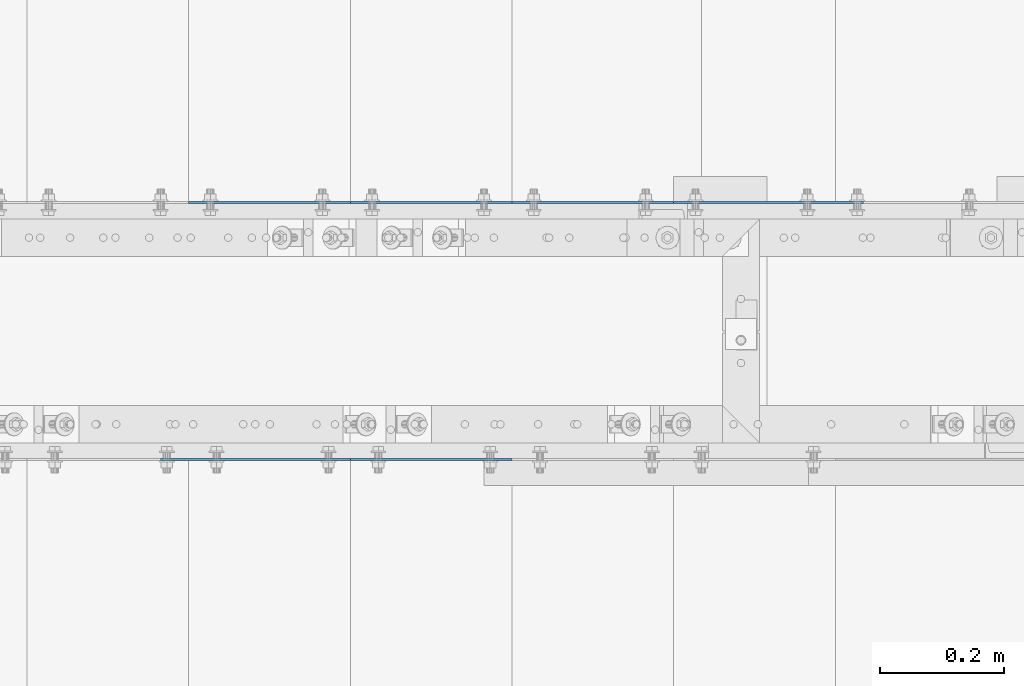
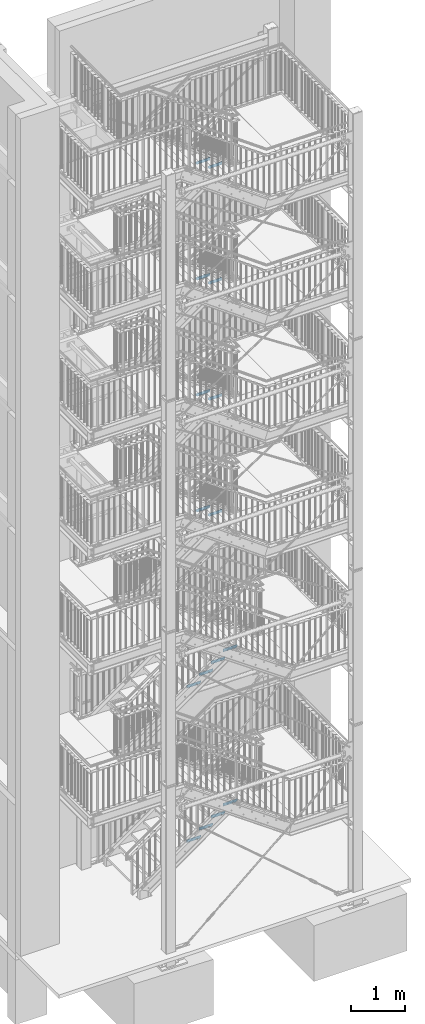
# One storey, part 173 of 821: 16 plates, 32 openings.
"""IFC2X3 building model written with IfcOpenShell, lengths in millimetres."""

import ifcopenshell
import ifcopenshell.guid

model = None  # the IFC model being written
_history = None  # IfcOwnerHistory: only IFC2X3 demands one
_inside = {}  # id of a spatial element -> (the spatial element, [elements in it])
_under = {}  # id of a project, library or spatial element -> (it, [spatial elements below it])
_declared = {}  # id of a project -> (the project, [libraries it declares])
_typed = {}  # id of a type object -> (the type object, [elements of that type])
_made_of = {}  # id of a material, layer set ... -> (it, [elements and type objects made of it])


def new_model(schema):
    """Start an empty IFC model of exactly this schema.

    Asked for "IFC4X3", IfcOpenShell would pick the latest addendum, in which some entities
    have other attributes; the version numbers below select the first issue.
    IFC2X3 requires an IfcOwnerHistory on every rooted entity: one is made here for all.
    """
    global model, _history
    if schema == "IFC4X3":
        model = ifcopenshell.file(schema_version=(4, 3, 0, 0))
    else:
        model = ifcopenshell.file(schema=schema)
    _inside.clear()
    _under.clear()
    _declared.clear()
    _typed.clear()
    _made_of.clear()
    _history = None
    if model.schema == "IFC2X3":
        org = make("IfcOrganization", Name="unknown")
        user = make(
            "IfcPersonAndOrganization",
            ThePerson=make("IfcPerson", FamilyName="unknown"),
            TheOrganization=org,
        )
        app = make(
            "IfcApplication",
            ApplicationDeveloper=org,
            Version="unknown",
            ApplicationFullName="unknown",
            ApplicationIdentifier="unknown",
        )
        _history = make(
            "IfcOwnerHistory",
            OwningUser=user,
            OwningApplication=app,
            ChangeAction="ADDED",
            CreationDate=0,
        )
    return model


def make(cls, **values):
    """One entity of the class cls with the attributes given. An attribute that is None is left unset."""
    return model.create_entity(
        cls, **{name: value for name, value in values.items() if value is not None}
    )


def entity(cls, *values):
    """Any entity or typed value of the class cls, its attributes in the order of the schema. None: left unset."""
    e = model.create_entity(cls)
    for i, value in enumerate(values):
        if value is not None:
            e[i] = value
    return e


def rooted(cls, **values):
    """An entity with a GlobalId (a new one), such as an element, a storey or a relation."""
    return make(cls, GlobalId=ifcopenshell.guid.new(), OwnerHistory=_history, **values)


def si_unit(unit_type, name, prefix=None):
    """IfcSIUnit, for example si_unit("LENGTHUNIT", "METRE", prefix="MILLI")."""
    return make("IfcSIUnit", UnitType=unit_type, Prefix=prefix, Name=name)


def converted_unit(unit_type, name, factor, base, dimensions=None, offset=None):
    """IfcConversionBasedUnit, such as the inch: factor (a typed value) times the base unit."""
    return make(
        "IfcConversionBasedUnit"
        if offset is None
        else "IfcConversionBasedUnitWithOffset",
        ConversionOffset=offset,
        Dimensions=None
        if dimensions is None
        else entity("IfcDimensionalExponents", *dimensions),
        UnitType=unit_type,
        Name=name,
        ConversionFactor=make(
            "IfcMeasureWithUnit", ValueComponent=factor, UnitComponent=base
        ),
    )


def assignment(units):
    """IfcUnitAssignment: the units of a project."""
    return None if units is None else make("IfcUnitAssignment", Units=units)


def point(xyz):
    """IfcCartesianPoint."""
    return None if xyz is None else make("IfcCartesianPoint", Coordinates=xyz)


def direction(xyz):
    """IfcDirection."""
    return None if xyz is None else make("IfcDirection", DirectionRatios=xyz)


def frame(location, z_axis=None, x_axis=None):
    """IfcAxis2Placement3D, a coordinate frame: its origin and axes. An axis left out is left unset."""
    return make(
        "IfcAxis2Placement3D",
        Location=point(location),
        Axis=direction(z_axis),
        RefDirection=direction(x_axis),
    )


def frame_2d(location, x_axis=None):
    """IfcAxis2Placement2D, a coordinate frame in the plane: its origin and x axis."""
    return make(
        "IfcAxis2Placement2D", Location=point(location), RefDirection=direction(x_axis)
    )


def origin():
    """The frame at (0, 0, 0) with its axes left unset."""
    return frame((0.0, 0.0, 0.0))


def origin_with_axes():
    """The frame at (0, 0, 0) with the z axis (0, 0, 1) and the x axis (1, 0, 0) written out."""
    return frame((0.0, 0.0, 0.0), z_axis=(0.0, 0.0, 1.0), x_axis=(1.0, 0.0, 0.0))


def origin_2d_with_axis():
    """The frame at (0, 0) in the plane with the x axis (1, 0) written out."""
    return frame_2d((0.0, 0.0), x_axis=(1.0, 0.0))


def place(relative_to, where):
    """IfcLocalPlacement: puts the frame where relative to a parent placement (None: the world)."""
    return make(
        "IfcLocalPlacement", PlacementRelTo=relative_to, RelativePlacement=where
    )


def context(
    kind, dimensions, precision=None, world=None, true_north=None, identifier=None
):
    """IfcGeometricRepresentationContext, for example the 3D "Model" context."""
    return make(
        "IfcGeometricRepresentationContext",
        ContextIdentifier=identifier,
        ContextType=kind,
        CoordinateSpaceDimension=dimensions,
        Precision=precision,
        WorldCoordinateSystem=world,
        TrueNorth=true_north,
    )


def project(units=None, contexts=None):
    """IfcProject with its units and contexts."""
    return rooted(
        "IfcProject",
        Name="project",
        RepresentationContexts=contexts,
        UnitsInContext=assignment(units),
    )


def spatial(cls, under=None, at=None, **own):
    """A site, building, storey or space (cls), placed at a placement, below another one or the project."""
    s = rooted(cls, ObjectPlacement=at, **own)
    if under is not None:
        _under.setdefault(under.id(), (under, []))[1].append(s)
    return s


def polyline(points):
    """IfcPolyline through the points."""
    return make("IfcPolyline", Points=[point(p) for p in points])


def circle_curve(where, radius):
    """IfcCircle in the frame where."""
    return make("IfcCircle", Position=where, Radius=radius)


def line_curve(start, along, magnitude):
    """IfcLine from a point along a vector."""
    return make(
        "IfcLine",
        Pnt=point(start),
        Dir=make("IfcVector", Orientation=direction(along), Magnitude=magnitude),
    )


def trimmed(basis, trim1, trim2, sense, master):
    """IfcTrimmedCurve: the piece of a basis curve between two trims."""
    return make(
        "IfcTrimmedCurve",
        BasisCurve=basis,
        Trim1=trim1,
        Trim2=trim2,
        SenseAgreement=sense,
        MasterRepresentation=master,
    )


def segment(curve, same_sense, transition):
    """IfcCompositeCurveSegment."""
    return make(
        "IfcCompositeCurveSegment",
        Transition=transition,
        SameSense=same_sense,
        ParentCurve=curve,
    )


def composite_curve(segments, self_intersect=None):
    """IfcCompositeCurve: segments joined end to end."""
    return make("IfcCompositeCurve", Segments=segments, SelfIntersect=self_intersect)


def profile(cls, at=None, kind="AREA", **sizes):
    """A parametric profile (cls). Its sizes go by their IFC names, for example OverallWidth=200.0."""
    return make(cls, ProfileType=kind, Position=at, **sizes)


def circle(**sizes):
    """IfcCircleProfileDef."""
    return profile("IfcCircleProfileDef", **sizes)


def outline(outer, holes=None, kind="AREA"):
    """IfcArbitraryClosedProfileDef: a profile drawn as a closed curve; with holes, ...WithVoids."""
    if holes is None:
        return make("IfcArbitraryClosedProfileDef", ProfileType=kind, OuterCurve=outer)
    return make(
        "IfcArbitraryProfileDefWithVoids",
        ProfileType=kind,
        OuterCurve=outer,
        InnerCurves=holes,
    )


def extrude(swept, where, along, depth):
    """IfcExtrudedAreaSolid: the profile swept, set in the frame where, extruded along a direction by depth."""
    return make(
        "IfcExtrudedAreaSolid",
        SweptArea=swept,
        Position=where,
        ExtrudedDirection=direction(along),
        Depth=depth,
    )


def shape(context_of_items, identifier, shape_type, items):
    """IfcShapeRepresentation: the items that make up one representation, for example the "Body"."""
    return make(
        "IfcShapeRepresentation",
        ContextOfItems=context_of_items,
        RepresentationIdentifier=identifier,
        RepresentationType=shape_type,
        Items=items,
    )


def material(Name=None, Category=None):
    """IfcMaterial."""
    return make("IfcMaterial", Name=Name, Category=Category)


def layer(
    of_material, thickness, ventilated=None, Name=None, Category=None, Priority=None
):
    """IfcMaterialLayer: one layer of a wall or slab, of a material (None: an air gap)."""
    return make(
        "IfcMaterialLayer",
        Material=of_material,
        LayerThickness=thickness,
        IsVentilated=ventilated,
        Name=Name,
        Category=Category,
        Priority=Priority,
    )


def layer_set(layers, Name=None):
    """IfcMaterialLayerSet."""
    return make("IfcMaterialLayerSet", MaterialLayers=layers, LayerSetName=Name)


def made_of(thing, what):
    """Note that an element or type object is made of a material, layer set ...; save() writes the relation."""
    if what is not None:
        _made_of.setdefault(what.id(), (what, []))[1].append(thing)
    return thing


def element(
    cls,
    number,
    at=None,
    inside=None,
    cuts=None,
    type_object=None,
    material=None,
    context=None,
    identifier="Body",
    shape_type=None,
    held_by="IfcProductDefinitionShape",
    body=None,
    shapes=None,
    **own,
):
    """One element of the class cls, such as IfcWall. Its Tag is "e" and its number.

    at: its placement. inside: the storey or other place that contains it. cuts: it is an
    opening in that element (IfcRelVoidsElement). A single representation is given by context,
    identifier, shape_type and body (its items); several are given by shapes. held_by: the class
    of the entity that holds the representations. save() writes the other relations.
    """
    e = rooted(cls, Tag="e%d" % number, ObjectPlacement=at, **own)
    if body is not None:
        shapes = [shape(context, identifier, shape_type, body)]
    if shapes is not None:
        e.Representation = make(held_by, Representations=shapes)
    if inside is not None:
        _inside.setdefault(inside.id(), (inside, []))[1].append(e)
    if cuts is not None:
        rooted(
            "IfcRelVoidsElement", RelatingBuildingElement=cuts, RelatedOpeningElement=e
        )
    if type_object is not None:
        _typed.setdefault(type_object.id(), (type_object, []))[1].append(e)
    return made_of(e, material)


def aggregate(whole, parts):
    """IfcRelAggregates: a whole, such as a stair, and the parts it consists of."""
    return rooted("IfcRelAggregates", RelatingObject=whole, RelatedObjects=parts)


def save(model, path):
    """Write the relations noted so far, then the file.

    IfcRelAggregates (storeys below a building ...), IfcRelContainedInSpatialStructure (elements
    in a storey), IfcRelDefinesByType, IfcRelAssociatesMaterial and IfcRelDeclares: one each for
    every whole, place, type object, material and project.
    """
    for whole, parts in _under.values():
        aggregate(whole, parts)
    for where, things in _inside.values():
        rooted(
            "IfcRelContainedInSpatialStructure",
            RelatedElements=things,
            RelatingStructure=where,
        )
    for kind, things in _typed.values():
        rooted("IfcRelDefinesByType", RelatedObjects=things, RelatingType=kind)
    for what, things in _made_of.values():
        rooted("IfcRelAssociatesMaterial", RelatedObjects=things, RelatingMaterial=what)
    for by, libraries in _declared.values():
        rooted("IfcRelDeclares", RelatingContext=by, RelatedDefinitions=libraries)
    model.write(path)


model = new_model("IFC2X3")

# Units and contexts
model_context = context("Model", 3, precision=1e-09, world=origin_with_axes())
ifc_project = project(units=[si_unit("LENGTHUNIT", "METRE", prefix="MILLI"), si_unit("AREAUNIT", "SQUARE_METRE"), si_unit("VOLUMEUNIT", "CUBIC_METRE"), converted_unit("PLANEANGLEUNIT", "DEGREE", entity("IfcPlaneAngleMeasure", 0.01745329), si_unit("PLANEANGLEUNIT", "RADIAN"), dimensions=[0, 0, 0, 0, 0, 0, 0])], contexts=[model_context])

# Site, building, storey
site_placement = place(None, origin_with_axes())
site = spatial("IfcSite", under=ifc_project, at=site_placement, Name="Cnopf'sche Kinderklinik", CompositionType="ELEMENT")
building_placement = place(site_placement, origin_with_axes())
building = spatial("IfcBuilding", under=site, at=building_placement, Name="Struktur 1", CompositionType="ELEMENT")
storey_placement = place(building_placement, origin_with_axes())
storey = spatial("IfcBuildingStorey", under=building, at=storey_placement, Name="Default Storey", CompositionType="ELEMENT", Elevation=0.0)

# Plate, openings
ifc_material = material(Name="S235JR")
ifc_layer = layer(ifc_material, 3.0)
ifc_layer_set = layer_set([ifc_layer], Name="S235JR")
plate_1_placement = place(None, frame((6536.713402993, 5733.736971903, 11680.7857145), z_axis=(0.0, 1.0, 0.0), x_axis=(0.0, 0.0, -1.0)))
plate_1 = element("IfcPlate", 1, at=plate_1_placement, inside=storey, material=ifc_layer_set, Name="Grate_Step#10", ObjectType="Grate_Step#10", context=model_context, shape_type="SweptSolid", body=[
    extrude(outline(polyline([(0.0, 0.0), (70.0, 0.0), (70.0, 275.0), (40.0, 305.0), (0.0, 305.0), (0.0, 0.0)])), origin_with_axes(), (0.0, 0.0, 1.0), 3.0),
])
opening_1_placement = place(plate_1_placement, frame((55.0, 215.0, -0.5), z_axis=(0.0, 0.0, 1.0), x_axis=(0.0, 1.0, 0.0)))
element("IfcOpeningElement", 2, at=opening_1_placement, cuts=plate_1, ObjectType="Opening", context=model_context, shape_type="SweptSolid", body=[
    extrude(outline(composite_curve([segment(trimmed(line_curve((-9.5, -7.001), (1.0, 0.0), 19.0), [point((-9.5, -7.001))], [point((9.5, -7.001))], True, "CARTESIAN"), True, "CONTINUOUS"), segment(trimmed(circle_curve(frame_2d((9.5, 0.0), x_axis=(1.0, 0.0)), 7.001), [point((9.5, -7.001))], [point((9.5, 7.001))], True, "CARTESIAN"), True, "CONTINUOUS"), segment(trimmed(line_curve((9.5, 7.001), (-1.0, 0.0), 19.0), [point((9.5, 7.001))], [point((-9.5, 7.001))], True, "CARTESIAN"), True, "CONTINUOUS"), segment(trimmed(circle_curve(frame_2d((-9.5, 0.0), x_axis=(1.0, 0.0)), 7.001), [point((-9.5, 7.001))], [point((-9.5, -7.001))], True, "CARTESIAN"), True, "CONTINUOUS")], self_intersect=False)), origin(), (0.0, 0.0, 1.0), 4.0),
])
opening_2_placement = place(plate_1_placement, frame((55.0, 35.0, -0.5), z_axis=(0.0, 0.0, 1.0), x_axis=(0.0, 1.0, 0.0)))
element("IfcOpeningElement", 3, at=opening_2_placement, cuts=plate_1, ObjectType="Opening", context=model_context, shape_type="SweptSolid", body=[
    extrude(circle(Radius=7.001, at=origin_2d_with_axis()), origin(), (0.0, 0.0, 1.0), 4.0),
])

plate_2_placement = place(None, frame((6796.713402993, 5733.736971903, 11493.1428574), z_axis=(0.0, 1.0, 0.0), x_axis=(0.0, 0.0, -1.0)))
plate_2 = element("IfcPlate", 4, at=plate_2_placement, inside=storey, material=ifc_layer_set, Name="Grate_Step#3", ObjectType="Grate_Step#3", context=model_context, shape_type="SweptSolid", body=[
    extrude(outline(polyline([(0.0, 0.0), (70.0, 0.0), (70.0, 275.0), (40.0, 305.0), (0.0, 305.0), (0.0, 0.0)])), origin_with_axes(), (0.0, 0.0, 1.0), 3.0),
])
opening_3_placement = place(plate_2_placement, frame((55.0, 215.0, -0.5), z_axis=(0.0, 0.0, 1.0), x_axis=(0.0, 1.0, 0.0)))
element("IfcOpeningElement", 5, at=opening_3_placement, cuts=plate_2, ObjectType="Opening", context=model_context, shape_type="SweptSolid", body=[
    extrude(outline(composite_curve([segment(trimmed(line_curve((-9.5, -7.001), (1.0, 0.0), 19.0), [point((-9.5, -7.001))], [point((9.5, -7.001))], True, "CARTESIAN"), True, "CONTINUOUS"), segment(trimmed(circle_curve(frame_2d((9.5, 0.0), x_axis=(1.0, 0.0)), 7.001), [point((9.5, -7.001))], [point((9.5, 7.001))], True, "CARTESIAN"), True, "CONTINUOUS"), segment(trimmed(line_curve((9.5, 7.001), (-1.0, 0.0), 19.0), [point((9.5, 7.001))], [point((-9.5, 7.001))], True, "CARTESIAN"), True, "CONTINUOUS"), segment(trimmed(circle_curve(frame_2d((-9.5, 0.0), x_axis=(1.0, 0.0)), 7.001), [point((-9.5, 7.001))], [point((-9.5, -7.001))], True, "CARTESIAN"), True, "CONTINUOUS")], self_intersect=False)), origin(), (0.0, 0.0, 1.0), 4.0),
])
opening_4_placement = place(plate_2_placement, frame((55.0, 35.0, -0.5), z_axis=(0.0, 0.0, 1.0), x_axis=(0.0, 1.0, 0.0)))
element("IfcOpeningElement", 6, at=opening_4_placement, cuts=plate_2, ObjectType="Opening", context=model_context, shape_type="SweptSolid", body=[
    extrude(circle(Radius=7.001, at=origin_2d_with_axis()), origin(), (0.0, 0.0, 1.0), 4.0),
])

plate_3_placement = place(None, frame((6796.713402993, 5733.736971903, 14124.7142858), z_axis=(0.0, 1.0, 0.0), x_axis=(0.0, 0.0, -1.0)))
plate_3 = element("IfcPlate", 7, at=plate_3_placement, inside=storey, material=ifc_layer_set, Name="Grate_Step#3", ObjectType="Grate_Step#3", context=model_context, shape_type="SweptSolid", body=[
    extrude(outline(polyline([(0.0, 0.0), (70.0, 0.0), (70.0, 275.0), (40.0, 305.0), (0.0, 305.0), (0.0, 0.0)])), origin_with_axes(), (0.0, 0.0, 1.0), 3.0),
])
opening_5_placement = place(plate_3_placement, frame((55.0, 215.0, -0.5), z_axis=(0.0, 0.0, 1.0), x_axis=(0.0, 1.0, 0.0)))
element("IfcOpeningElement", 8, at=opening_5_placement, cuts=plate_3, ObjectType="Opening", context=model_context, shape_type="SweptSolid", body=[
    extrude(outline(composite_curve([segment(trimmed(line_curve((-9.5, -7.001), (1.0, 0.0), 19.0), [point((-9.5, -7.001))], [point((9.5, -7.001))], True, "CARTESIAN"), True, "CONTINUOUS"), segment(trimmed(circle_curve(frame_2d((9.5, 0.0), x_axis=(1.0, 0.0)), 7.001), [point((9.5, -7.001))], [point((9.5, 7.001))], True, "CARTESIAN"), True, "CONTINUOUS"), segment(trimmed(line_curve((9.5, 7.001), (-1.0, 0.0), 19.0), [point((9.5, 7.001))], [point((-9.5, 7.001))], True, "CARTESIAN"), True, "CONTINUOUS"), segment(trimmed(circle_curve(frame_2d((-9.5, 0.0), x_axis=(1.0, 0.0)), 7.001), [point((-9.5, 7.001))], [point((-9.5, -7.001))], True, "CARTESIAN"), True, "CONTINUOUS")], self_intersect=False)), origin(), (0.0, 0.0, 1.0), 4.0),
])
opening_6_placement = place(plate_3_placement, frame((55.0, 35.0, -0.5), z_axis=(0.0, 0.0, 1.0), x_axis=(0.0, 1.0, 0.0)))
element("IfcOpeningElement", 9, at=opening_6_placement, cuts=plate_3, ObjectType="Opening", context=model_context, shape_type="SweptSolid", body=[
    extrude(circle(Radius=7.001, at=origin_2d_with_axis()), origin(), (0.0, 0.0, 1.0), 4.0),
])

plate_4_placement = place(None, frame((6536.713402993, 5733.736971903, 14312.9285715), z_axis=(0.0, 1.0, 0.0), x_axis=(0.0, 0.0, -1.0)))
plate_4 = element("IfcPlate", 10, at=plate_4_placement, inside=storey, material=ifc_layer_set, Name="Grate_Step#10", ObjectType="Grate_Step#10", context=model_context, shape_type="SweptSolid", body=[
    extrude(outline(polyline([(0.0, 0.0), (70.0, 0.0), (70.0, 275.0), (40.0, 305.0), (0.0, 305.0), (0.0, 0.0)])), origin_with_axes(), (0.0, 0.0, 1.0), 3.0),
])
opening_7_placement = place(plate_4_placement, frame((55.0, 215.0, -0.5), z_axis=(0.0, 0.0, 1.0), x_axis=(0.0, 1.0, 0.0)))
element("IfcOpeningElement", 11, at=opening_7_placement, cuts=plate_4, ObjectType="Opening", context=model_context, shape_type="SweptSolid", body=[
    extrude(outline(composite_curve([segment(trimmed(line_curve((-9.5, -7.001), (1.0, 0.0), 19.0), [point((-9.5, -7.001))], [point((9.5, -7.001))], True, "CARTESIAN"), True, "CONTINUOUS"), segment(trimmed(circle_curve(frame_2d((9.5, 0.0), x_axis=(1.0, 0.0)), 7.001), [point((9.5, -7.001))], [point((9.5, 7.001))], True, "CARTESIAN"), True, "CONTINUOUS"), segment(trimmed(line_curve((9.5, 7.001), (-1.0, 0.0), 19.0), [point((9.5, 7.001))], [point((-9.5, 7.001))], True, "CARTESIAN"), True, "CONTINUOUS"), segment(trimmed(circle_curve(frame_2d((-9.5, 0.0), x_axis=(1.0, 0.0)), 7.001), [point((-9.5, 7.001))], [point((-9.5, -7.001))], True, "CARTESIAN"), True, "CONTINUOUS")], self_intersect=False)), origin(), (0.0, 0.0, 1.0), 4.0),
])
opening_8_placement = place(plate_4_placement, frame((55.0, 35.0, -0.5), z_axis=(0.0, 0.0, 1.0), x_axis=(0.0, 1.0, 0.0)))
element("IfcOpeningElement", 12, at=opening_8_placement, cuts=plate_4, ObjectType="Opening", context=model_context, shape_type="SweptSolid", body=[
    extrude(circle(Radius=7.001, at=origin_2d_with_axis()), origin(), (0.0, 0.0, 1.0), 4.0),
])

plate_5_placement = place(None, frame((6796.713402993, 5733.736971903, 16751.1428574), z_axis=(0.0, 1.0, 0.0), x_axis=(0.0, 0.0, -1.0)))
plate_5 = element("IfcPlate", 13, at=plate_5_placement, inside=storey, material=ifc_layer_set, Name="Grate_Step#3", ObjectType="Grate_Step#3", context=model_context, shape_type="SweptSolid", body=[
    extrude(outline(polyline([(0.0, 0.0), (70.0, 0.0), (70.0, 275.0), (40.0, 305.0), (0.0, 305.0), (0.0, 0.0)])), origin_with_axes(), (0.0, 0.0, 1.0), 3.0),
])
opening_9_placement = place(plate_5_placement, frame((55.0, 35.0, -0.5), z_axis=(0.0, 0.0, 1.0), x_axis=(0.0, 1.0, 0.0)))
element("IfcOpeningElement", 14, at=opening_9_placement, cuts=plate_5, ObjectType="Opening", context=model_context, shape_type="SweptSolid", body=[
    extrude(circle(Radius=7.001, at=origin_2d_with_axis()), origin(), (0.0, 0.0, 1.0), 4.0),
])
opening_10_placement = place(plate_5_placement, frame((55.0, 215.0, -0.5), z_axis=(0.0, 0.0, 1.0), x_axis=(0.0, 1.0, 0.0)))
element("IfcOpeningElement", 15, at=opening_10_placement, cuts=plate_5, ObjectType="Opening", context=model_context, shape_type="SweptSolid", body=[
    extrude(outline(composite_curve([segment(trimmed(line_curve((-9.5, -7.001), (1.0, 0.0), 19.0), [point((-9.5, -7.001))], [point((9.5, -7.001))], True, "CARTESIAN"), True, "CONTINUOUS"), segment(trimmed(circle_curve(frame_2d((9.5, 0.0), x_axis=(1.0, 0.0)), 7.001), [point((9.5, -7.001))], [point((9.5, 7.001))], True, "CARTESIAN"), True, "CONTINUOUS"), segment(trimmed(line_curve((9.5, 7.001), (-1.0, 0.0), 19.0), [point((9.5, 7.001))], [point((-9.5, 7.001))], True, "CARTESIAN"), True, "CONTINUOUS"), segment(trimmed(circle_curve(frame_2d((-9.5, 0.0), x_axis=(1.0, 0.0)), 7.001), [point((-9.5, 7.001))], [point((-9.5, -7.001))], True, "CARTESIAN"), True, "CONTINUOUS")], self_intersect=False)), origin(), (0.0, 0.0, 1.0), 4.0),
])

plate_6_placement = place(None, frame((6536.713402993, 5733.736971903, 16938.2857145), z_axis=(0.0, 1.0, 0.0), x_axis=(0.0, 0.0, -1.0)))
plate_6 = element("IfcPlate", 16, at=plate_6_placement, inside=storey, material=ifc_layer_set, Name="Grate_Step#10", ObjectType="Grate_Step#10", context=model_context, shape_type="SweptSolid", body=[
    extrude(outline(polyline([(0.0, 0.0), (70.0, 0.0), (70.0, 275.0), (40.0, 305.0), (0.0, 305.0), (0.0, 0.0)])), origin_with_axes(), (0.0, 0.0, 1.0), 3.0),
])
opening_11_placement = place(plate_6_placement, frame((55.0, 35.0, -0.5), z_axis=(0.0, 0.0, 1.0), x_axis=(0.0, 1.0, 0.0)))
element("IfcOpeningElement", 17, at=opening_11_placement, cuts=plate_6, ObjectType="Opening", context=model_context, shape_type="SweptSolid", body=[
    extrude(circle(Radius=7.001, at=origin_2d_with_axis()), origin(), (0.0, 0.0, 1.0), 4.0),
])
opening_12_placement = place(plate_6_placement, frame((55.0, 215.0, -0.5), z_axis=(0.0, 0.0, 1.0), x_axis=(0.0, 1.0, 0.0)))
element("IfcOpeningElement", 18, at=opening_12_placement, cuts=plate_6, ObjectType="Opening", context=model_context, shape_type="SweptSolid", body=[
    extrude(outline(composite_curve([segment(trimmed(line_curve((-9.5, -7.001), (1.0, 0.0), 19.0), [point((-9.5, -7.001))], [point((9.5, -7.001))], True, "CARTESIAN"), True, "CONTINUOUS"), segment(trimmed(circle_curve(frame_2d((9.5, 0.0), x_axis=(1.0, 0.0)), 7.001), [point((9.5, -7.001))], [point((9.5, 7.001))], True, "CARTESIAN"), True, "CONTINUOUS"), segment(trimmed(line_curve((9.5, 7.001), (-1.0, 0.0), 19.0), [point((9.5, 7.001))], [point((-9.5, 7.001))], True, "CARTESIAN"), True, "CONTINUOUS"), segment(trimmed(circle_curve(frame_2d((-9.5, 0.0), x_axis=(1.0, 0.0)), 7.001), [point((-9.5, 7.001))], [point((-9.5, -7.001))], True, "CARTESIAN"), True, "CONTINUOUS")], self_intersect=False)), origin(), (0.0, 0.0, 1.0), 4.0),
])

plate_7_placement = place(None, frame((6796.713402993, 5733.736971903, 8864.0), z_axis=(0.0, 1.0, 0.0), x_axis=(0.0, 0.0, -1.0)))
plate_7 = element("IfcPlate", 19, at=plate_7_placement, inside=storey, material=ifc_layer_set, Name="Grate_Step#3", ObjectType="Grate_Step#3", context=model_context, shape_type="SweptSolid", body=[
    extrude(outline(polyline([(0.0, 0.0), (70.0, 0.0), (70.0, 275.0), (40.0, 305.0), (0.0, 305.0), (0.0, 0.0)])), origin_with_axes(), (0.0, 0.0, 1.0), 3.0),
])
opening_13_placement = place(plate_7_placement, frame((55.0, 35.0, -0.5), z_axis=(0.0, 0.0, 1.0), x_axis=(0.0, 1.0, 0.0)))
element("IfcOpeningElement", 20, at=opening_13_placement, cuts=plate_7, ObjectType="Opening", context=model_context, shape_type="SweptSolid", body=[
    extrude(circle(Radius=7.001, at=origin_2d_with_axis()), origin(), (0.0, 0.0, 1.0), 4.0),
])
opening_14_placement = place(plate_7_placement, frame((55.0, 215.0, -0.5), z_axis=(0.0, 0.0, 1.0), x_axis=(0.0, 1.0, 0.0)))
element("IfcOpeningElement", 21, at=opening_14_placement, cuts=plate_7, ObjectType="Opening", context=model_context, shape_type="SweptSolid", body=[
    extrude(outline(composite_curve([segment(trimmed(line_curve((-9.5, -7.001), (1.0, 0.0), 19.0), [point((-9.5, -7.001))], [point((9.5, -7.001))], True, "CARTESIAN"), True, "CONTINUOUS"), segment(trimmed(circle_curve(frame_2d((9.5, 0.0), x_axis=(1.0, 0.0)), 7.001), [point((9.5, -7.001))], [point((9.5, 7.001))], True, "CARTESIAN"), True, "CONTINUOUS"), segment(trimmed(line_curve((9.5, 7.001), (-1.0, 0.0), 19.0), [point((9.5, 7.001))], [point((-9.5, 7.001))], True, "CARTESIAN"), True, "CONTINUOUS"), segment(trimmed(circle_curve(frame_2d((-9.5, 0.0), x_axis=(1.0, 0.0)), 7.001), [point((-9.5, 7.001))], [point((-9.5, -7.001))], True, "CARTESIAN"), True, "CONTINUOUS")], self_intersect=False)), origin(), (0.0, 0.0, 1.0), 4.0),
])

plate_8_placement = place(None, frame((6536.713402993, 5733.736971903, 9052.0), z_axis=(0.0, 1.0, 0.0), x_axis=(0.0, 0.0, -1.0)))
plate_8 = element("IfcPlate", 22, at=plate_8_placement, inside=storey, material=ifc_layer_set, Name="Grate_Step#10", ObjectType="Grate_Step#10", context=model_context, shape_type="SweptSolid", body=[
    extrude(outline(polyline([(0.0, 0.0), (70.0, 0.0), (70.0, 275.0), (40.0, 305.0), (0.0, 305.0), (0.0, 0.0)])), origin_with_axes(), (0.0, 0.0, 1.0), 3.0),
])
opening_15_placement = place(plate_8_placement, frame((55.0, 35.0, -0.5), z_axis=(0.0, 0.0, 1.0), x_axis=(0.0, 1.0, 0.0)))
element("IfcOpeningElement", 23, at=opening_15_placement, cuts=plate_8, ObjectType="Opening", context=model_context, shape_type="SweptSolid", body=[
    extrude(circle(Radius=7.001, at=origin_2d_with_axis()), origin(), (0.0, 0.0, 1.0), 4.0),
])
opening_16_placement = place(plate_8_placement, frame((55.0, 215.0, -0.5), z_axis=(0.0, 0.0, 1.0), x_axis=(0.0, 1.0, 0.0)))
element("IfcOpeningElement", 24, at=opening_16_placement, cuts=plate_8, ObjectType="Opening", context=model_context, shape_type="SweptSolid", body=[
    extrude(outline(composite_curve([segment(trimmed(line_curve((-9.5, -7.001), (1.0, 0.0), 19.0), [point((-9.5, -7.001))], [point((9.5, -7.001))], True, "CARTESIAN"), True, "CONTINUOUS"), segment(trimmed(circle_curve(frame_2d((9.5, 0.0), x_axis=(1.0, 0.0)), 7.001), [point((9.5, -7.001))], [point((9.5, 7.001))], True, "CARTESIAN"), True, "CONTINUOUS"), segment(trimmed(line_curve((9.5, 7.001), (-1.0, 0.0), 19.0), [point((9.5, 7.001))], [point((-9.5, 7.001))], True, "CARTESIAN"), True, "CONTINUOUS"), segment(trimmed(circle_curve(frame_2d((-9.5, 0.0), x_axis=(1.0, 0.0)), 7.001), [point((-9.5, 7.001))], [point((-9.5, -7.001))], True, "CARTESIAN"), True, "CONTINUOUS")], self_intersect=False)), origin(), (0.0, 0.0, 1.0), 4.0),
])

plate_9_placement = place(None, frame((6276.713402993, 6149.736971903, 1295.5263152), z_axis=(0.0, -1.0, 0.0), x_axis=(0.0, 0.0, -1.0)))
plate_9 = element("IfcPlate", 25, at=plate_9_placement, inside=storey, material=ifc_layer_set, Name="Grate_Step#31", ObjectType="Grate_Step#31", context=model_context, shape_type="SweptSolid", body=[
    extrude(outline(polyline([(0.0, 0.0), (70.0, 0.0), (70.0, 275.0), (40.0, 305.0), (0.0, 305.0), (0.0, 0.0)])), origin_with_axes(), (0.0, 0.0, 1.0), 3.0),
])
opening_17_placement = place(plate_9_placement, frame((55.0, 215.0, -0.5), z_axis=(0.0, 0.0, 1.0), x_axis=(0.0, 1.0, 0.0)))
element("IfcOpeningElement", 26, at=opening_17_placement, cuts=plate_9, ObjectType="Opening", context=model_context, shape_type="SweptSolid", body=[
    extrude(outline(composite_curve([segment(trimmed(line_curve((-9.5, -7.001), (1.0, 0.0), 19.0), [point((-9.5, -7.001))], [point((9.5, -7.001))], True, "CARTESIAN"), True, "CONTINUOUS"), segment(trimmed(circle_curve(frame_2d((9.5, 0.0), x_axis=(1.0, 0.0)), 7.001), [point((9.5, -7.001))], [point((9.5, 7.001))], True, "CARTESIAN"), True, "CONTINUOUS"), segment(trimmed(line_curve((9.5, 7.001), (-1.0, 0.0), 19.0), [point((9.5, 7.001))], [point((-9.5, 7.001))], True, "CARTESIAN"), True, "CONTINUOUS"), segment(trimmed(circle_curve(frame_2d((-9.5, 0.0), x_axis=(1.0, 0.0)), 7.001), [point((-9.5, 7.001))], [point((-9.5, -7.001))], True, "CARTESIAN"), True, "CONTINUOUS")], self_intersect=False)), origin(), (0.0, 0.0, 1.0), 4.0),
])
opening_18_placement = place(plate_9_placement, frame((55.0, 35.0, -0.5), z_axis=(0.0, 0.0, 1.0), x_axis=(0.0, 1.0, 0.0)))
element("IfcOpeningElement", 27, at=opening_18_placement, cuts=plate_9, ObjectType="Opening", context=model_context, shape_type="SweptSolid", body=[
    extrude(circle(Radius=7.001, at=origin_2d_with_axis()), origin(), (0.0, 0.0, 1.0), 4.0),
])

plate_10_placement = place(None, frame((6796.713402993, 6149.736971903, 1665.7368416), z_axis=(0.0, -1.0, 0.0), x_axis=(0.0, 0.0, -1.0)))
plate_10 = element("IfcPlate", 28, at=plate_10_placement, inside=storey, material=ifc_layer_set, Name="Grate_Step#45", ObjectType="Grate_Step#45", context=model_context, shape_type="SweptSolid", body=[
    extrude(outline(polyline([(0.0, 0.0), (70.0, 0.0), (70.0, 275.0), (40.0, 305.0), (0.0, 305.0), (0.0, 0.0)])), origin_with_axes(), (0.0, 0.0, 1.0), 3.0),
])
opening_19_placement = place(plate_10_placement, frame((55.0, 215.0, -0.5), z_axis=(0.0, 0.0, 1.0), x_axis=(0.0, 1.0, 0.0)))
element("IfcOpeningElement", 29, at=opening_19_placement, cuts=plate_10, ObjectType="Opening", context=model_context, shape_type="SweptSolid", body=[
    extrude(outline(composite_curve([segment(trimmed(line_curve((-9.5, -7.001), (1.0, 0.0), 19.0), [point((-9.5, -7.001))], [point((9.5, -7.001))], True, "CARTESIAN"), True, "CONTINUOUS"), segment(trimmed(circle_curve(frame_2d((9.5, 0.0), x_axis=(1.0, 0.0)), 7.001), [point((9.5, -7.001))], [point((9.5, 7.001))], True, "CARTESIAN"), True, "CONTINUOUS"), segment(trimmed(line_curve((9.5, 7.001), (-1.0, 0.0), 19.0), [point((9.5, 7.001))], [point((-9.5, 7.001))], True, "CARTESIAN"), True, "CONTINUOUS"), segment(trimmed(circle_curve(frame_2d((-9.5, 0.0), x_axis=(1.0, 0.0)), 7.001), [point((-9.5, 7.001))], [point((-9.5, -7.001))], True, "CARTESIAN"), True, "CONTINUOUS")], self_intersect=False)), origin(), (0.0, 0.0, 1.0), 4.0),
])
opening_20_placement = place(plate_10_placement, frame((55.0, 35.0, -0.5), z_axis=(0.0, 0.0, 1.0), x_axis=(0.0, 1.0, 0.0)))
element("IfcOpeningElement", 30, at=opening_20_placement, cuts=plate_10, ObjectType="Opening", context=model_context, shape_type="SweptSolid", body=[
    extrude(circle(Radius=7.001, at=origin_2d_with_axis()), origin(), (0.0, 0.0, 1.0), 4.0),
])

plate_11_placement = place(None, frame((6536.713402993, 6149.736971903, 4983.7368419), z_axis=(0.0, -1.0, 0.0), x_axis=(0.0, 0.0, -1.0)))
plate_11 = element("IfcPlate", 31, at=plate_11_placement, inside=storey, material=ifc_layer_set, Name="Grate_Step#38", ObjectType="Grate_Step#38", context=model_context, shape_type="SweptSolid", body=[
    extrude(outline(polyline([(0.0, 0.0), (70.0, 0.0), (70.0, 275.0), (40.0, 305.0), (0.0, 305.0), (0.0, 0.0)])), origin_with_axes(), (0.0, 0.0, 1.0), 3.0),
])
opening_21_placement = place(plate_11_placement, frame((55.0, 35.0, -0.5), z_axis=(0.0, 0.0, 1.0), x_axis=(0.0, 1.0, 0.0)))
element("IfcOpeningElement", 32, at=opening_21_placement, cuts=plate_11, ObjectType="Opening", context=model_context, shape_type="SweptSolid", body=[
    extrude(circle(Radius=7.001, at=origin_2d_with_axis()), origin(), (0.0, 0.0, 1.0), 4.0),
])
opening_22_placement = place(plate_11_placement, frame((55.0, 215.0, -0.5), z_axis=(0.0, 0.0, 1.0), x_axis=(0.0, 1.0, 0.0)))
element("IfcOpeningElement", 33, at=opening_22_placement, cuts=plate_11, ObjectType="Opening", context=model_context, shape_type="SweptSolid", body=[
    extrude(outline(composite_curve([segment(trimmed(line_curve((-9.5, -7.001), (1.0, 0.0), 19.0), [point((-9.5, -7.001))], [point((9.5, -7.001))], True, "CARTESIAN"), True, "CONTINUOUS"), segment(trimmed(circle_curve(frame_2d((9.5, 0.0), x_axis=(1.0, 0.0)), 7.001), [point((9.5, -7.001))], [point((9.5, 7.001))], True, "CARTESIAN"), True, "CONTINUOUS"), segment(trimmed(line_curve((9.5, 7.001), (-1.0, 0.0), 19.0), [point((9.5, 7.001))], [point((-9.5, 7.001))], True, "CARTESIAN"), True, "CONTINUOUS"), segment(trimmed(circle_curve(frame_2d((-9.5, 0.0), x_axis=(1.0, 0.0)), 7.001), [point((-9.5, 7.001))], [point((-9.5, -7.001))], True, "CARTESIAN"), True, "CONTINUOUS")], self_intersect=False)), origin(), (0.0, 0.0, 1.0), 4.0),
])

plate_12_placement = place(None, frame((7056.713402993, 6149.736971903, 5349.3157893), z_axis=(0.0, -1.0, 0.0), x_axis=(0.0, 0.0, -1.0)))
plate_12 = element("IfcPlate", 34, at=plate_12_placement, inside=storey, material=ifc_layer_set, Name="Grate_Step#52", ObjectType="Grate_Step#52", context=model_context, shape_type="SweptSolid", body=[
    extrude(outline(polyline([(0.0, 0.0), (70.0, 0.0), (70.0, 275.0), (40.0, 305.0), (0.0, 305.0), (0.0, 0.0)])), origin_with_axes(), (0.0, 0.0, 1.0), 3.0),
])
opening_23_placement = place(plate_12_placement, frame((55.0, 215.0, -0.5), z_axis=(0.0, 0.0, 1.0), x_axis=(0.0, 1.0, 0.0)))
element("IfcOpeningElement", 35, at=opening_23_placement, cuts=plate_12, ObjectType="Opening", context=model_context, shape_type="SweptSolid", body=[
    extrude(outline(composite_curve([segment(trimmed(line_curve((-9.5, -7.001), (1.0, 0.0), 19.0), [point((-9.5, -7.001))], [point((9.5, -7.001))], True, "CARTESIAN"), True, "CONTINUOUS"), segment(trimmed(circle_curve(frame_2d((9.5, 0.0), x_axis=(1.0, 0.0)), 7.001), [point((9.5, -7.001))], [point((9.5, 7.001))], True, "CARTESIAN"), True, "CONTINUOUS"), segment(trimmed(line_curve((9.5, 7.001), (-1.0, 0.0), 19.0), [point((9.5, 7.001))], [point((-9.5, 7.001))], True, "CARTESIAN"), True, "CONTINUOUS"), segment(trimmed(circle_curve(frame_2d((-9.5, 0.0), x_axis=(1.0, 0.0)), 7.001), [point((-9.5, 7.001))], [point((-9.5, -7.001))], True, "CARTESIAN"), True, "CONTINUOUS")], self_intersect=False)), origin(), (0.0, 0.0, 1.0), 4.0),
])
opening_24_placement = place(plate_12_placement, frame((55.0, 35.0, -0.5), z_axis=(0.0, 0.0, 1.0), x_axis=(0.0, 1.0, 0.0)))
element("IfcOpeningElement", 36, at=opening_24_placement, cuts=plate_12, ObjectType="Opening", context=model_context, shape_type="SweptSolid", body=[
    extrude(circle(Radius=7.001, at=origin_2d_with_axis()), origin(), (0.0, 0.0, 1.0), 4.0),
])

plate_13_placement = place(None, frame((6276.713402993, 6149.736971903, 4800.9473682), z_axis=(0.0, -1.0, 0.0), x_axis=(0.0, 0.0, -1.0)))
plate_13 = element("IfcPlate", 37, at=plate_13_placement, inside=storey, material=ifc_layer_set, Name="Grate_Step#31", ObjectType="Grate_Step#31", context=model_context, shape_type="SweptSolid", body=[
    extrude(outline(polyline([(0.0, 0.0), (70.0, 0.0), (70.0, 275.0), (40.0, 305.0), (0.0, 305.0), (0.0, 0.0)])), origin_with_axes(), (0.0, 0.0, 1.0), 3.0),
])
opening_25_placement = place(plate_13_placement, frame((55.0, 35.0, -0.5), z_axis=(0.0, 0.0, 1.0), x_axis=(0.0, 1.0, 0.0)))
element("IfcOpeningElement", 38, at=opening_25_placement, cuts=plate_13, ObjectType="Opening", context=model_context, shape_type="SweptSolid", body=[
    extrude(circle(Radius=7.001, at=origin_2d_with_axis()), origin(), (0.0, 0.0, 1.0), 4.0),
])
opening_26_placement = place(plate_13_placement, frame((55.0, 215.0, -0.5), z_axis=(0.0, 0.0, 1.0), x_axis=(0.0, 1.0, 0.0)))
element("IfcOpeningElement", 39, at=opening_26_placement, cuts=plate_13, ObjectType="Opening", context=model_context, shape_type="SweptSolid", body=[
    extrude(outline(composite_curve([segment(trimmed(line_curve((-9.5, -7.001), (1.0, 0.0), 19.0), [point((-9.5, -7.001))], [point((9.5, -7.001))], True, "CARTESIAN"), True, "CONTINUOUS"), segment(trimmed(circle_curve(frame_2d((9.5, 0.0), x_axis=(1.0, 0.0)), 7.001), [point((9.5, -7.001))], [point((9.5, 7.001))], True, "CARTESIAN"), True, "CONTINUOUS"), segment(trimmed(line_curve((9.5, 7.001), (-1.0, 0.0), 19.0), [point((9.5, 7.001))], [point((-9.5, 7.001))], True, "CARTESIAN"), True, "CONTINUOUS"), segment(trimmed(circle_curve(frame_2d((-9.5, 0.0), x_axis=(1.0, 0.0)), 7.001), [point((-9.5, 7.001))], [point((-9.5, -7.001))], True, "CARTESIAN"), True, "CONTINUOUS")], self_intersect=False)), origin(), (0.0, 0.0, 1.0), 4.0),
])

plate_14_placement = place(None, frame((6796.713402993, 6149.736971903, 5166.5263156), z_axis=(0.0, -1.0, 0.0), x_axis=(0.0, 0.0, -1.0)))
plate_14 = element("IfcPlate", 40, at=plate_14_placement, inside=storey, material=ifc_layer_set, Name="Grate_Step#45", ObjectType="Grate_Step#45", context=model_context, shape_type="SweptSolid", body=[
    extrude(outline(polyline([(0.0, 0.0), (70.0, 0.0), (70.0, 275.0), (40.0, 305.0), (0.0, 305.0), (0.0, 0.0)])), origin_with_axes(), (0.0, 0.0, 1.0), 3.0),
])
opening_27_placement = place(plate_14_placement, frame((55.0, 35.0, -0.5), z_axis=(0.0, 0.0, 1.0), x_axis=(0.0, 1.0, 0.0)))
element("IfcOpeningElement", 41, at=opening_27_placement, cuts=plate_14, ObjectType="Opening", context=model_context, shape_type="SweptSolid", body=[
    extrude(circle(Radius=7.001, at=origin_2d_with_axis()), origin(), (0.0, 0.0, 1.0), 4.0),
])
opening_28_placement = place(plate_14_placement, frame((55.0, 215.0, -0.5), z_axis=(0.0, 0.0, 1.0), x_axis=(0.0, 1.0, 0.0)))
element("IfcOpeningElement", 42, at=opening_28_placement, cuts=plate_14, ObjectType="Opening", context=model_context, shape_type="SweptSolid", body=[
    extrude(outline(composite_curve([segment(trimmed(line_curve((-9.5, -7.001), (1.0, 0.0), 19.0), [point((-9.5, -7.001))], [point((9.5, -7.001))], True, "CARTESIAN"), True, "CONTINUOUS"), segment(trimmed(circle_curve(frame_2d((9.5, 0.0), x_axis=(1.0, 0.0)), 7.001), [point((9.5, -7.001))], [point((9.5, 7.001))], True, "CARTESIAN"), True, "CONTINUOUS"), segment(trimmed(line_curve((9.5, 7.001), (-1.0, 0.0), 19.0), [point((9.5, 7.001))], [point((-9.5, 7.001))], True, "CARTESIAN"), True, "CONTINUOUS"), segment(trimmed(circle_curve(frame_2d((-9.5, 0.0), x_axis=(1.0, 0.0)), 7.001), [point((-9.5, 7.001))], [point((-9.5, -7.001))], True, "CARTESIAN"), True, "CONTINUOUS")], self_intersect=False)), origin(), (0.0, 0.0, 1.0), 4.0),
])

plate_15_placement = place(None, frame((6536.713402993, 6149.736971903, 1480.6315784), z_axis=(0.0, -1.0, 0.0), x_axis=(0.0, 0.0, -1.0)))
plate_15 = element("IfcPlate", 43, at=plate_15_placement, inside=storey, material=ifc_layer_set, Name="Grate_Step#38", ObjectType="Grate_Step#38", context=model_context, shape_type="SweptSolid", body=[
    extrude(outline(polyline([(0.0, 0.0), (70.0, 0.0), (70.0, 275.0), (40.0, 305.0), (0.0, 305.0), (0.0, 0.0)])), origin_with_axes(), (0.0, 0.0, 1.0), 3.0),
])
opening_29_placement = place(plate_15_placement, frame((55.0, 215.0, -0.5), z_axis=(0.0, 0.0, 1.0), x_axis=(0.0, 1.0, 0.0)))
element("IfcOpeningElement", 44, at=opening_29_placement, cuts=plate_15, ObjectType="Opening", context=model_context, shape_type="SweptSolid", body=[
    extrude(outline(composite_curve([segment(trimmed(line_curve((-9.5, -7.001), (1.0, 0.0), 19.0), [point((-9.5, -7.001))], [point((9.5, -7.001))], True, "CARTESIAN"), True, "CONTINUOUS"), segment(trimmed(circle_curve(frame_2d((9.5, 0.0), x_axis=(1.0, 0.0)), 7.001), [point((9.5, -7.001))], [point((9.5, 7.001))], True, "CARTESIAN"), True, "CONTINUOUS"), segment(trimmed(line_curve((9.5, 7.001), (-1.0, 0.0), 19.0), [point((9.5, 7.001))], [point((-9.5, 7.001))], True, "CARTESIAN"), True, "CONTINUOUS"), segment(trimmed(circle_curve(frame_2d((-9.5, 0.0), x_axis=(1.0, 0.0)), 7.001), [point((-9.5, 7.001))], [point((-9.5, -7.001))], True, "CARTESIAN"), True, "CONTINUOUS")], self_intersect=False)), origin(), (0.0, 0.0, 1.0), 4.0),
])
opening_30_placement = place(plate_15_placement, frame((55.0, 35.0, -0.5), z_axis=(0.0, 0.0, 1.0), x_axis=(0.0, 1.0, 0.0)))
element("IfcOpeningElement", 45, at=opening_30_placement, cuts=plate_15, ObjectType="Opening", context=model_context, shape_type="SweptSolid", body=[
    extrude(circle(Radius=7.001, at=origin_2d_with_axis()), origin(), (0.0, 0.0, 1.0), 4.0),
])

plate_16_placement = place(None, frame((7056.713402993, 6149.736971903, 1850.8421048), z_axis=(0.0, -1.0, 0.0), x_axis=(0.0, 0.0, -1.0)))
plate_16 = element("IfcPlate", 46, at=plate_16_placement, inside=storey, material=ifc_layer_set, Name="Grate_Step#52", ObjectType="Grate_Step#52", context=model_context, shape_type="SweptSolid", body=[
    extrude(outline(polyline([(0.0, 0.0), (70.0, 0.0), (70.0, 275.0), (40.0, 305.0), (0.0, 305.0), (0.0, 0.0)])), origin_with_axes(), (0.0, 0.0, 1.0), 3.0),
])
opening_31_placement = place(plate_16_placement, frame((55.0, 35.0, -0.5), z_axis=(0.0, 0.0, 1.0), x_axis=(0.0, 1.0, 0.0)))
element("IfcOpeningElement", 47, at=opening_31_placement, cuts=plate_16, ObjectType="Opening", context=model_context, shape_type="SweptSolid", body=[
    extrude(circle(Radius=7.001, at=origin_2d_with_axis()), origin(), (0.0, 0.0, 1.0), 4.0),
])
opening_32_placement = place(plate_16_placement, frame((55.0, 215.0, -0.5), z_axis=(0.0, 0.0, 1.0), x_axis=(0.0, 1.0, 0.0)))
element("IfcOpeningElement", 48, at=opening_32_placement, cuts=plate_16, ObjectType="Opening", context=model_context, shape_type="SweptSolid", body=[
    extrude(outline(composite_curve([segment(trimmed(line_curve((-9.5, -7.001), (1.0, 0.0), 19.0), [point((-9.5, -7.001))], [point((9.5, -7.001))], True, "CARTESIAN"), True, "CONTINUOUS"), segment(trimmed(circle_curve(frame_2d((9.5, 0.0), x_axis=(1.0, 0.0)), 7.001), [point((9.5, -7.001))], [point((9.5, 7.001))], True, "CARTESIAN"), True, "CONTINUOUS"), segment(trimmed(line_curve((9.5, 7.001), (-1.0, 0.0), 19.0), [point((9.5, 7.001))], [point((-9.5, 7.001))], True, "CARTESIAN"), True, "CONTINUOUS"), segment(trimmed(circle_curve(frame_2d((-9.5, 0.0), x_axis=(1.0, 0.0)), 7.001), [point((-9.5, 7.001))], [point((-9.5, -7.001))], True, "CARTESIAN"), True, "CONTINUOUS")], self_intersect=False)), origin(), (0.0, 0.0, 1.0), 4.0),
])

save(model, "model.ifc")
